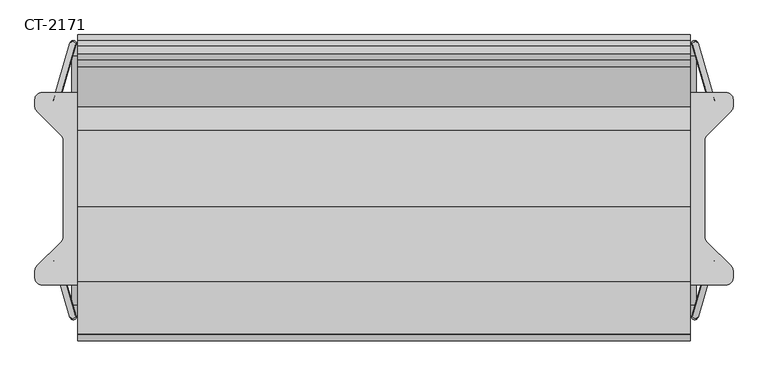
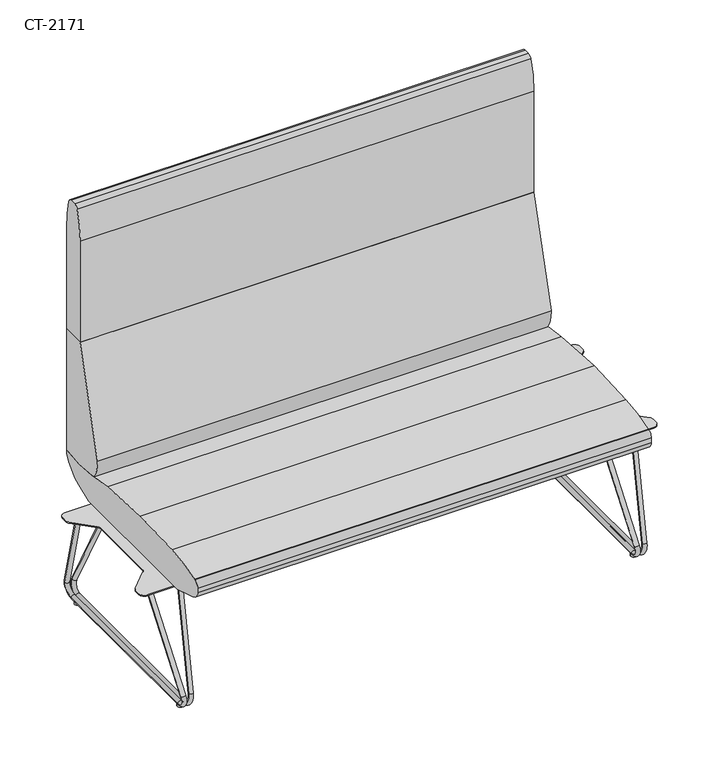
"""IFC4 building model written with IfcOpenShell, lengths in millimetres: furniture geometry, Davis_Furniture-Cantina-High_Back_Straight : CT-2171."""

import ifcopenshell
import ifcopenshell.guid

model = None  # the IFC model being written
_history = None  # IfcOwnerHistory: only IFC2X3 demands one
_inside = {}  # id of a spatial element -> (the spatial element, [elements in it])
_under = {}  # id of a project, library or spatial element -> (it, [spatial elements below it])
_declared = {}  # id of a project -> (the project, [libraries it declares])
_typed = {}  # id of a type object -> (the type object, [elements of that type])
_made_of = {}  # id of a material, layer set ... -> (it, [elements and type objects made of it])


def new_model(schema):
    """Start an empty IFC model of exactly this schema.

    Asked for "IFC4X3", IfcOpenShell would pick the latest addendum, in which some entities
    have other attributes; the version numbers below select the first issue.
    IFC2X3 requires an IfcOwnerHistory on every rooted entity: one is made here for all.
    """
    global model, _history
    if schema == "IFC4X3":
        model = ifcopenshell.file(schema_version=(4, 3, 0, 0))
    else:
        model = ifcopenshell.file(schema=schema)
    _inside.clear()
    _under.clear()
    _declared.clear()
    _typed.clear()
    _made_of.clear()
    _history = None
    if model.schema == "IFC2X3":
        org = make("IfcOrganization", Name="unknown")
        user = make(
            "IfcPersonAndOrganization",
            ThePerson=make("IfcPerson", FamilyName="unknown"),
            TheOrganization=org,
        )
        app = make(
            "IfcApplication",
            ApplicationDeveloper=org,
            Version="unknown",
            ApplicationFullName="unknown",
            ApplicationIdentifier="unknown",
        )
        _history = make(
            "IfcOwnerHistory",
            OwningUser=user,
            OwningApplication=app,
            ChangeAction="ADDED",
            CreationDate=0,
        )
    return model


def make(cls, **values):
    """One entity of the class cls with the attributes given. An attribute that is None is left unset."""
    return model.create_entity(
        cls, **{name: value for name, value in values.items() if value is not None}
    )


def rooted(cls, **values):
    """An entity with a GlobalId (a new one), such as an element, a storey or a relation."""
    return make(cls, GlobalId=ifcopenshell.guid.new(), OwnerHistory=_history, **values)


def si_unit(unit_type, name, prefix=None):
    """IfcSIUnit, for example si_unit("LENGTHUNIT", "METRE", prefix="MILLI")."""
    return make("IfcSIUnit", UnitType=unit_type, Prefix=prefix, Name=name)


def assignment(units):
    """IfcUnitAssignment: the units of a project."""
    return None if units is None else make("IfcUnitAssignment", Units=units)


def point(xyz):
    """IfcCartesianPoint."""
    return None if xyz is None else make("IfcCartesianPoint", Coordinates=xyz)


def direction(xyz):
    """IfcDirection."""
    return None if xyz is None else make("IfcDirection", DirectionRatios=xyz)


def frame(location, z_axis=None, x_axis=None):
    """IfcAxis2Placement3D, a coordinate frame: its origin and axes. An axis left out is left unset."""
    return make(
        "IfcAxis2Placement3D",
        Location=point(location),
        Axis=direction(z_axis),
        RefDirection=direction(x_axis),
    )


def frame_2d(location, x_axis=None):
    """IfcAxis2Placement2D, a coordinate frame in the plane: its origin and x axis."""
    return make(
        "IfcAxis2Placement2D", Location=point(location), RefDirection=direction(x_axis)
    )


def origin():
    """The frame at (0, 0, 0) with its axes left unset."""
    return frame((0.0, 0.0, 0.0))


def origin_with_axes():
    """The frame at (0, 0, 0) with the z axis (0, 0, 1) and the x axis (1, 0, 0) written out."""
    return frame((0.0, 0.0, 0.0), z_axis=(0.0, 0.0, 1.0), x_axis=(1.0, 0.0, 0.0))


def place(relative_to, where):
    """IfcLocalPlacement: puts the frame where relative to a parent placement (None: the world)."""
    return make(
        "IfcLocalPlacement", PlacementRelTo=relative_to, RelativePlacement=where
    )


def context(
    kind, dimensions, precision=None, world=None, true_north=None, identifier=None
):
    """IfcGeometricRepresentationContext, for example the 3D "Model" context."""
    return make(
        "IfcGeometricRepresentationContext",
        ContextIdentifier=identifier,
        ContextType=kind,
        CoordinateSpaceDimension=dimensions,
        Precision=precision,
        WorldCoordinateSystem=world,
        TrueNorth=true_north,
    )


def project(units=None, contexts=None):
    """IfcProject with its units and contexts."""
    return rooted(
        "IfcProject",
        Name="project",
        RepresentationContexts=contexts,
        UnitsInContext=assignment(units),
    )


def spatial(cls, under=None, at=None, **own):
    """A site, building, storey or space (cls), placed at a placement, below another one or the project."""
    s = rooted(cls, ObjectPlacement=at, **own)
    if under is not None:
        _under.setdefault(under.id(), (under, []))[1].append(s)
    return s


def polyline(points):
    """IfcPolyline through the points."""
    return make("IfcPolyline", Points=[point(p) for p in points])


def circle_curve(where, radius):
    """IfcCircle in the frame where."""
    return make("IfcCircle", Position=where, Radius=radius)


def ellipse_curve(where, semi_axis1, semi_axis2):
    """IfcEllipse in the frame where."""
    return make(
        "IfcEllipse", Position=where, SemiAxis1=semi_axis1, SemiAxis2=semi_axis2
    )


def trimmed(basis, trim1, trim2, sense, master):
    """IfcTrimmedCurve: the piece of a basis curve between two trims."""
    return make(
        "IfcTrimmedCurve",
        BasisCurve=basis,
        Trim1=trim1,
        Trim2=trim2,
        SenseAgreement=sense,
        MasterRepresentation=master,
    )


def segment(curve, same_sense, transition):
    """IfcCompositeCurveSegment."""
    return make(
        "IfcCompositeCurveSegment",
        Transition=transition,
        SameSense=same_sense,
        ParentCurve=curve,
    )


def composite_curve(segments, self_intersect=None):
    """IfcCompositeCurve: segments joined end to end."""
    return make("IfcCompositeCurve", Segments=segments, SelfIntersect=self_intersect)


def outline(outer, holes=None, kind="AREA"):
    """IfcArbitraryClosedProfileDef: a profile drawn as a closed curve; with holes, ...WithVoids."""
    if holes is None:
        return make("IfcArbitraryClosedProfileDef", ProfileType=kind, OuterCurve=outer)
    return make(
        "IfcArbitraryProfileDefWithVoids",
        ProfileType=kind,
        OuterCurve=outer,
        InnerCurves=holes,
    )


def extrude(swept, where, along, depth):
    """IfcExtrudedAreaSolid: the profile swept, set in the frame where, extruded along a direction by depth."""
    return make(
        "IfcExtrudedAreaSolid",
        SweptArea=swept,
        Position=where,
        ExtrudedDirection=direction(along),
        Depth=depth,
    )


def shape(context_of_items, identifier, shape_type, items):
    """IfcShapeRepresentation: the items that make up one representation, for example the "Body"."""
    return make(
        "IfcShapeRepresentation",
        ContextOfItems=context_of_items,
        RepresentationIdentifier=identifier,
        RepresentationType=shape_type,
        Items=items,
    )


def source(mapping_origin, context_of_items, identifier, shape_type, items):
    """IfcRepresentationMap: a shape defined once, which mapped items show again and again."""
    return make(
        "IfcRepresentationMap",
        MappingOrigin=mapping_origin,
        MappedRepresentation=shape(context_of_items, identifier, shape_type, items),
    )


def transform(
    local_origin,
    x_axis=None,
    y_axis=None,
    z_axis=None,
    scale=None,
    scale2=None,
    scale3=None,
    uniform=True,
):
    """IfcCartesianTransformationOperator3D, or its non-uniform kind. x_axis, y_axis, z_axis: its Axis1, 2, 3."""
    if uniform:
        return make(
            "IfcCartesianTransformationOperator3D",
            Axis1=direction(x_axis),
            Axis2=direction(y_axis),
            LocalOrigin=point(local_origin),
            Scale=scale,
            Axis3=direction(z_axis),
        )
    return make(
        "IfcCartesianTransformationOperator3DnonUniform",
        Axis1=direction(x_axis),
        Axis2=direction(y_axis),
        LocalOrigin=point(local_origin),
        Scale=scale,
        Axis3=direction(z_axis),
        Scale2=scale2,
        Scale3=scale3,
    )


def mapped(mapping_source, mapping_target):
    """IfcMappedItem: shows the shape of a source again, moved by a transform."""
    return make(
        "IfcMappedItem", MappingSource=mapping_source, MappingTarget=mapping_target
    )


def made_of(thing, what):
    """Note that an element or type object is made of a material, layer set ...; save() writes the relation."""
    if what is not None:
        _made_of.setdefault(what.id(), (what, []))[1].append(thing)
    return thing


def element(
    cls,
    number,
    at=None,
    inside=None,
    cuts=None,
    type_object=None,
    material=None,
    context=None,
    identifier="Body",
    shape_type=None,
    held_by="IfcProductDefinitionShape",
    body=None,
    shapes=None,
    **own,
):
    """One element of the class cls, such as IfcWall. Its Tag is "e" and its number.

    at: its placement. inside: the storey or other place that contains it. cuts: it is an
    opening in that element (IfcRelVoidsElement). A single representation is given by context,
    identifier, shape_type and body (its items); several are given by shapes. held_by: the class
    of the entity that holds the representations. save() writes the other relations.
    """
    e = rooted(cls, Tag="e%d" % number, ObjectPlacement=at, **own)
    if body is not None:
        shapes = [shape(context, identifier, shape_type, body)]
    if shapes is not None:
        e.Representation = make(held_by, Representations=shapes)
    if inside is not None:
        _inside.setdefault(inside.id(), (inside, []))[1].append(e)
    if cuts is not None:
        rooted(
            "IfcRelVoidsElement", RelatingBuildingElement=cuts, RelatedOpeningElement=e
        )
    if type_object is not None:
        _typed.setdefault(type_object.id(), (type_object, []))[1].append(e)
    return made_of(e, material)


def aggregate(whole, parts):
    """IfcRelAggregates: a whole, such as a stair, and the parts it consists of."""
    return rooted("IfcRelAggregates", RelatingObject=whole, RelatedObjects=parts)


def save(model, path):
    """Write the relations noted so far, then the file.

    IfcRelAggregates (storeys below a building ...), IfcRelContainedInSpatialStructure (elements
    in a storey), IfcRelDefinesByType, IfcRelAssociatesMaterial and IfcRelDeclares: one each for
    every whole, place, type object, material and project.
    """
    for whole, parts in _under.values():
        aggregate(whole, parts)
    for where, things in _inside.values():
        rooted(
            "IfcRelContainedInSpatialStructure",
            RelatedElements=things,
            RelatingStructure=where,
        )
    for kind, things in _typed.values():
        rooted("IfcRelDefinesByType", RelatedObjects=things, RelatingType=kind)
    for what, things in _made_of.values():
        rooted("IfcRelAssociatesMaterial", RelatedObjects=things, RelatingMaterial=what)
    for by, libraries in _declared.values():
        rooted("IfcRelDeclares", RelatingContext=by, RelatedDefinitions=libraries)
    model.write(path)


def plane_surface(at):
    """IfcPlane: the flat surface through the origin of the frame at, square to its z axis."""
    return make("IfcPlane", Position=at)


def cylinder_surface(at, radius):
    """IfcCylindricalSurface: all points at the distance radius from the z axis of the frame at."""
    return make("IfcCylindricalSurface", Position=at, Radius=radius)


def revolved_surface(curve, axis_point, axis_direction):
    """IfcSurfaceOfRevolution: the curve turned about the line through axis_point along axis_direction."""
    return make(
        "IfcSurfaceOfRevolution",
        SweptCurve=make("IfcArbitraryOpenProfileDef", ProfileType="CURVE", Curve=curve),
        AxisPosition=make("IfcAxis1Placement", Location=point(axis_point), Axis=direction(axis_direction)),
    )


def advanced_brep(points, edges, surfaces, faces):
    """IfcAdvancedBrep: a solid bounded by faces that lie on surfaces and meet in shared edges.

    An edge is (start, end): straight between two places in points (the first is 0);
    or (start, end, curve); or (start, end, curve, False) where it runs against its curve.
    A face is (place in surfaces, loops), or (place, loops, False) where it looks against
    its surface's normal. A loop lists edges by number (the first is 1), with a minus sign
    where the edge is run from its end to its start. The first loop is the outer one.
    """
    corners = [point(p) for p in points]
    vertices = [make("IfcVertexPoint", VertexGeometry=c) for c in corners]
    made = []
    for start, end, *more in edges:
        made.append(
            make(
                "IfcEdgeCurve",
                EdgeStart=vertices[start],
                EdgeEnd=vertices[end],
                EdgeGeometry=more[0] if more else make("IfcPolyline", Points=[corners[start], corners[end]]),
                SameSense=more[1] if len(more) > 1 else True,
            )
        )
    hull = []
    for where, loops, *sense in faces:
        bounds = []
        for j, loop in enumerate(loops):
            ring = [make("IfcOrientedEdge", EdgeElement=made[abs(k) - 1], Orientation=k > 0) for k in loop]
            bounds.append(
                make(
                    "IfcFaceOuterBound" if j == 0 else "IfcFaceBound",
                    Bound=make("IfcEdgeLoop", EdgeList=ring),
                    Orientation=True,
                )
            )
        hull.append(make("IfcAdvancedFace", Bounds=bounds, FaceSurface=surfaces[where], SameSense=sense[0] if sense else True))
    return make("IfcAdvancedBrep", Outer=make("IfcClosedShell", CfsFaces=hull))


def ct_2171_44496a0e(model_context):
    return source(origin(), model_context, "Body", "SolidModel", [
        extrude(outline(composite_curve([segment(trimmed(circle_curve(frame_2d((709.0306813, 183.2173202)), 14.9820313), [point((709.0306813, 198.1993514))], [point((724.0127126, 183.2173202))], False, "CARTESIAN"), True, "CONTINUOUS"), segment(polyline([(724.0127126, 183.2173202), (724.0127126, 168.7877705)]), True, "CONTINUOUS"), segment(trimmed(circle_curve(frame_2d((710.0063569, 168.7877705)), 14.0063557), [point((724.0127126, 168.7877705))], [point((719.910346, 158.8837814))], False, "CARTESIAN"), True, "CONTINUOUS"), segment(polyline([(719.910346, 158.8837814), (669.3136664, 108.2871019)]), True, "CONTINUOUS"), segment(trimmed(circle_curve(frame_2d((679.6970876, 97.9036807)), 14.684375), [point((669.3136664, 108.2871019))], [point((665.0127126, 97.9036807))], True, "CARTESIAN"), True, "CONTINUOUS"), segment(polyline([(665.0127126, 97.9036807), (665.0127126, -101.5049781)]), True, "CONTINUOUS"), segment(trimmed(circle_curve(frame_2d((679.6970876, -101.5049781)), 14.684375), [point((665.0127126, -101.5049781))], [point((669.3136664, -111.8883992))], True, "CARTESIAN"), True, "CONTINUOUS"), segment(polyline([(669.3136664, -111.8883992), (719.910346, -162.4850787)]), True, "CONTINUOUS"), segment(trimmed(circle_curve(frame_2d((710.0063569, -172.3890678)), 14.0063557), [point((719.910346, -162.4850787))], [point((724.0127126, -172.3890678))], False, "CARTESIAN"), True, "CONTINUOUS"), segment(polyline([(724.0127126, -172.3890678), (724.0127126, -186.8186175)]), True, "CONTINUOUS"), segment(trimmed(circle_curve(frame_2d((709.0306813, -186.8186175)), 14.9820312), [point((724.0127126, -186.8186175))], [point((709.0306813, -201.8006488))], False, "CARTESIAN"), True, "CONTINUOUS"), segment(polyline([(709.0306813, -201.8006488), (560.9693187, -201.8006488)]), True, "CONTINUOUS"), segment(trimmed(circle_curve(frame_2d((560.9693187, -186.8440427)), 14.956606), [point((560.9693187, -201.8006488))], [point((546.0127127, -186.8440427))], False, "CARTESIAN"), True, "CONTINUOUS"), segment(polyline([(546.0127127, -186.8440427), (546.0127127, -172.3822284)]), True, "CONTINUOUS"), segment(trimmed(circle_curve(frame_2d((560.0025564, -172.3822284)), 13.9898438), [point((546.0127127, -172.3822284))], [point((550.110243, -162.489915))], False, "CARTESIAN"), True, "CONTINUOUS"), segment(polyline([(550.110243, -162.489915), (600.7117588, -111.8883992)]), True, "CONTINUOUS"), segment(trimmed(circle_curve(frame_2d((590.3283377, -101.5049781)), 14.684375), [point((600.7117588, -111.8883992))], [point((605.0127127, -101.5049781))], True, "CARTESIAN"), True, "CONTINUOUS"), segment(polyline([(605.0127127, -101.5049781), (605.0127127, 97.918921)]), True, "CONTINUOUS"), segment(trimmed(circle_curve(frame_2d((590.3651309, 97.918921)), 14.6475818), [point((605.0127127, 97.918921))], [point((600.7225353, 108.2763254))], True, "CARTESIAN"), True, "CONTINUOUS"), segment(polyline([(600.7225353, 108.2763254), (550.110243, 158.8886177)]), True, "CONTINUOUS"), segment(trimmed(circle_curve(frame_2d((560.0025564, 168.780931)), 13.9898437), [point((550.110243, 158.8886177))], [point((546.0127127, 168.780931))], False, "CARTESIAN"), True, "CONTINUOUS"), segment(polyline([(546.0127127, 168.780931), (546.0127127, 183.2427454)]), True, "CONTINUOUS"), segment(trimmed(circle_curve(frame_2d((560.9693187, 183.2427454)), 14.956606), [point((546.0127127, 183.2427454))], [point((560.9693187, 198.1993514))], False, "CARTESIAN"), True, "CONTINUOUS"), segment(polyline([(560.9693187, 198.1993514), (709.0306813, 198.1993514)]), True, "CONTINUOUS")], self_intersect=False)), frame((0.0, 0.0, 330.7277844), z_axis=(0.0, 0.0, 1.0), x_axis=(1.0, 0.0, 0.0)), (0.0, 0.0, 1.0), 3.1724353),
        advanced_brep(
        [(639.3476455, 298.4299122, 51.3019909), (651.7863293, 297.001732, 49.1737411), (686.3568189, 178.5251074, 330.7277844), (673.6568189, 180.8488451, 330.7277844), (634.9955294, 274.6441492, 15.8568497), (647.6955294, 274.6441492, 15.8568497), (634.9955294, -242.6856853, 15.8568497), (647.6955294, -242.6856853, 15.8568497), (639.3476455, -266.4714483, 51.3019909), (651.7863293, -265.0432681, 49.1737411), (673.6568189, -148.8903812, 330.7277844), (686.3568189, -146.5666435, 330.7277844)],
        [
            (0, 1, circle_curve(frame((645.5669874, 297.7158221, 50.237866), z_axis=(0.112455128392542, -0.3853952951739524, 0.9158735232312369), x_axis=(-0.9794239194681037, 0.11245512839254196, 0.16757872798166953)), 6.35)),
            (1, 2),
            (2, 3, ellipse_curve(frame((680.0068189, 179.6869762, 330.7277844), z_axis=(0.0, 0.0, -1.0), x_axis=(0.28011057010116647, -0.9599677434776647, 0.0)), 6.9332717, 6.35)),
            (3, 0),
            (1, 0, circle_curve(frame((645.5669874, 297.7158221, 50.237866), z_axis=(0.112455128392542, -0.3853952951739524, 0.9158735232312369), x_axis=(-0.9794239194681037, 0.11245512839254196, 0.16757872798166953)), 6.35)),
            (3, 2, ellipse_curve(frame((680.0068189, 179.6869762, 330.7277844), z_axis=(0.0, 0.0, -1.0), x_axis=(0.28011057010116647, -0.9599677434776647, 0.0)), 6.9332717, 6.35)),
            (0, 4, circle_curve(frame((638.1369549, 274.6441492, 41.4417072), z_axis=(-0.9925461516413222, 0.0, 0.12186934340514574), x_axis=(0.046967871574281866, 0.9227515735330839, 0.38252261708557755)), 25.7769953)),
            (4, 5, circle_curve(frame((641.3455294, 274.6441492, 15.8568497), z_axis=(0.0, 1.0, 0.0), x_axis=(-1.0, 0.0, 0.0)), 6.35)),
            (5, 1, circle_curve(frame((650.6483328, 274.6441492, 39.9055032), z_axis=(0.9925461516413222, 0.0, -0.12186934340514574), x_axis=(0.046967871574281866, 0.9227515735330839, 0.38252261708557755)), 24.2292547)),
            (5, 4, circle_curve(frame((641.3455294, 274.6441492, 15.8568497), z_axis=(0.0, 0.9999999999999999, 0.0), x_axis=(-1.0, 0.0, 0.0)), 6.35)),
            (4, 6),
            (6, 7, circle_curve(frame((641.3455294, -242.6856853, 15.8568497), z_axis=(0.0, 1.0, 0.0), x_axis=(-1.0, 0.0, 0.0)), 6.35)),
            (7, 5),
            (7, 6, circle_curve(frame((641.3455294, -242.6856853, 15.8568497), z_axis=(0.0, 1.0, 0.0), x_axis=(-1.0, 0.0, 0.0)), 6.35)),
            (6, 8, circle_curve(frame((638.1369549, -242.6856853, 41.4417072), z_axis=(-0.9925461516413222, 0.0, 0.12186934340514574), x_axis=(-0.12186934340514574, 0.0, -0.9925461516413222)), 25.7769953)),
            (8, 9, circle_curve(frame((645.5669874, -265.7573582, 50.237866), z_axis=(-0.11245512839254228, -0.3853952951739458, -0.9158735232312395), x_axis=(-0.9794239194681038, -0.1124551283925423, 0.16757872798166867)), 6.35)),
            (9, 7, circle_curve(frame((650.6483328, -242.6856853, 39.9055032), z_axis=(0.9925461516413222, 0.0, -0.12186934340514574), x_axis=(-0.12186934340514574, 0.0, -0.9925461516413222)), 24.2292547)),
            (9, 8, circle_curve(frame((645.5669874, -265.7573582, 50.237866), z_axis=(-0.11245512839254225, -0.3853952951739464, -0.9158735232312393), x_axis=(-0.9794239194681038, -0.11245512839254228, 0.16757872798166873)), 6.35)),
            (8, 10),
            (10, 11, ellipse_curve(frame((680.0068189, -147.7285123, 330.7277844), z_axis=(0.0, 0.0, -1.0), x_axis=(-0.28011057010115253, -0.9599677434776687, 0.0)), 6.9332717, 6.35)),
            (11, 9),
            (11, 10, ellipse_curve(frame((680.0068189, -147.7285123, 330.7277844), z_axis=(0.0, 0.0, -1.0), x_axis=(-0.28011057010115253, -0.9599677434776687, 0.0)), 6.9332717, 6.35)),
        ],
        [
            cylinder_surface(frame((681.1405198, 175.8016664, 339.9610379), z_axis=(0.112455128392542, -0.3853952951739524, 0.9158735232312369), x_axis=(-0.9794239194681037, 0.11245512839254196, 0.16757872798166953)), 6.35),
            revolved_surface(trimmed(ellipse_curve(frame((645.5669874, 297.7158221, 50.237866), z_axis=(0.11245512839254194, -0.38539529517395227, 0.9158735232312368), x_axis=(-0.9794239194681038, 0.112455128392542, 0.1675787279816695)), 6.35, 6.35), [point((639.3476455, 298.4299122, 51.3019909))], [point((651.7863293, 297.001732, 49.1737411))], True, "CARTESIAN"), (697.3582375, 274.6441492, 34.170248), (-0.9925461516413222, 0.0, 0.12186934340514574)),
            revolved_surface(trimmed(ellipse_curve(frame((645.5669874, 297.7158221, 50.237866), z_axis=(0.11245512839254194, -0.38539529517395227, 0.9158735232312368), x_axis=(-0.9794239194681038, 0.112455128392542, 0.1675787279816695)), 6.35, 6.35), [point((651.7863293, 297.001732, 49.1737411))], [point((639.3476455, 298.4299122, 51.3019909))], True, "CARTESIAN"), (697.3582375, 274.6441492, 34.170248), (-0.9925461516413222, 0.0, 0.12186934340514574)),
            cylinder_surface(frame((641.3455294, 274.6441492, 15.8568497), z_axis=(0.0, 1.0, 0.0), x_axis=(-1.0, 0.0, 0.0)), 6.35),
            revolved_surface(trimmed(ellipse_curve(frame((641.3455294, -242.6856853, 15.8568497), z_axis=(0.0, 1.0, 0.0), x_axis=(-1.0, 0.0, 0.0)), 6.35, 6.35), [point((634.9955294, -242.6856853, 15.8568497))], [point((647.6955294, -242.6856853, 15.8568497))], True, "CARTESIAN"), (697.3582375, -242.6856853, 34.170248), (-0.9925461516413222, 0.0, 0.12186934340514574)),
            revolved_surface(trimmed(ellipse_curve(frame((641.3455294, -242.6856853, 15.8568497), z_axis=(0.0, 1.0, 0.0), x_axis=(-1.0, 0.0, 0.0)), 6.35, 6.35), [point((647.6955294, -242.6856853, 15.8568497))], [point((634.9955294, -242.6856853, 15.8568497))], True, "CARTESIAN"), (697.3582375, -242.6856853, 34.170248), (-0.9925461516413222, 0.0, 0.12186934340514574)),
            cylinder_surface(frame((645.5669874, -265.7573582, 50.237866), z_axis=(-0.11245512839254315, -0.38539529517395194, -0.9158735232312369), x_axis=(-0.9794239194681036, -0.11245512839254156, 0.1675787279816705)), 6.35),
            plane_surface(frame((574.675, -168.170768, 330.7277844), z_axis=(0.0, 0.0, 1.0), x_axis=(0.0, 1.0, 0.0))),
        ],
        [
            (0, [[1, 2, 3, 4]]),
            (0, [[5, -4, 6, -2]]),
            (1, [[-1, 7, 8, 9]]),
            (2, [[-5, -9, 10, -7]]),
            (3, [[-8, 11, 12, 13]]),
            (3, [[-10, -13, 14, -11]]),
            (4, [[-12, 15, 16, 17]]),
            (5, [[-14, -17, 18, -15]]),
            (6, [[-16, 19, 20, 21]]),
            (6, [[-18, -21, 22, -19]]),
            (7, [[-3, -6]]),
            (7, [[-20, -22]]),
        ],
    ),
        advanced_brep(
        [(618.2136707, 297.001732, 49.1737411), (630.6523545, 298.4299122, 51.3019909), (596.3431811, 180.8488451, 330.7277844), (583.6431811, 178.5251074, 330.7277844), (622.3044706, 274.6441492, 15.8568497), (635.0044706, 274.6441492, 15.8568497), (622.3044706, -242.6856853, 15.8568497), (635.0044706, -242.6856853, 15.8568497), (618.2136707, -265.0432681, 49.1737411), (630.6523545, -266.4714483, 51.3019909), (583.6431811, -146.5666435, 330.7277844), (596.3431811, -148.8903812, 330.7277844)],
        [
            (0, 1, circle_curve(frame((624.4330126, 297.7158221, 50.237866), z_axis=(-0.11245512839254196, -0.38539529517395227, 0.915873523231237), x_axis=(0.9794239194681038, 0.11245512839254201, 0.1675787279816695)), 6.35)),
            (1, 2),
            (2, 3, ellipse_curve(frame((589.9931811, 179.6869762, 330.7277844), z_axis=(0.0, 0.0, -1.0), x_axis=(-0.28011057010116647, -0.9599677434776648, 0.0)), 6.9332717, 6.35)),
            (3, 0),
            (1, 0, circle_curve(frame((624.4330126, 297.7158221, 50.237866), z_axis=(-0.11245512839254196, -0.38539529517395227, 0.915873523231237), x_axis=(0.9794239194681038, 0.11245512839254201, 0.1675787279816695)), 6.35)),
            (3, 2, ellipse_curve(frame((589.9931811, 179.6869762, 330.7277844), z_axis=(0.0, 0.0, -1.0), x_axis=(-0.28011057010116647, -0.9599677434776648, 0.0)), 6.9332717, 6.35)),
            (0, 4, circle_curve(frame((619.3516672, 274.6441492, 39.9055032), z_axis=(-0.9925461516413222, 0.0, -0.12186934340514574), x_axis=(-0.046967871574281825, 0.9227515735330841, 0.38252261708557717)), 24.2292547)),
            (4, 5, circle_curve(frame((628.6544706, 274.6441492, 15.8568497), z_axis=(0.0, 1.0000000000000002, 0.0), x_axis=(1.0, 0.0, 0.0)), 6.35)),
            (5, 1, circle_curve(frame((631.8630451, 274.6441492, 41.4417072), z_axis=(0.9925461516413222, 0.0, 0.12186934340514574), x_axis=(-0.046967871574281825, 0.9227515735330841, 0.38252261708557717)), 25.7769953)),
            (5, 4, circle_curve(frame((628.6544706, 274.6441492, 15.8568497), z_axis=(0.0, 1.0000000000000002, 0.0), x_axis=(1.0, 0.0, 0.0)), 6.35)),
            (4, 6),
            (6, 7, circle_curve(frame((628.6544706, -242.6856853, 15.8568497), z_axis=(0.0, 1.0, 0.0), x_axis=(1.0, 0.0, 0.0)), 6.35)),
            (7, 5),
            (7, 6, circle_curve(frame((628.6544706, -242.6856853, 15.8568497), z_axis=(0.0, 1.0, 0.0), x_axis=(1.0, 0.0, 0.0)), 6.35)),
            (6, 8, circle_curve(frame((619.3516672, -242.6856853, 39.9055032), z_axis=(-0.9925461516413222, 0.0, -0.12186934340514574), x_axis=(0.12186934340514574, 0.0, -0.9925461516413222)), 24.2292547)),
            (8, 9, circle_curve(frame((624.4330126, -265.7573582, 50.237866), z_axis=(0.11245512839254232, -0.3853952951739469, -0.915873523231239), x_axis=(0.9794239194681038, -0.11245512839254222, 0.1675787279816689)), 6.35)),
            (9, 7, circle_curve(frame((631.8630451, -242.6856853, 41.4417072), z_axis=(0.9925461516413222, 0.0, 0.12186934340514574), x_axis=(0.12186934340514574, 0.0, -0.9925461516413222)), 25.7769953)),
            (9, 8, circle_curve(frame((624.4330126, -265.7573582, 50.237866), z_axis=(0.11245512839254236, -0.3853952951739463, -0.9158735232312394), x_axis=(0.9794239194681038, -0.11245512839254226, 0.1675787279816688)), 6.35)),
            (8, 10),
            (10, 11, ellipse_curve(frame((589.9931811, -147.7285123, 330.7277844), z_axis=(0.0, 0.0, -1.0), x_axis=(0.2801105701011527, -0.9599677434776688, 0.0)), 6.9332717, 6.35)),
            (11, 9),
            (11, 10, ellipse_curve(frame((589.9931811, -147.7285123, 330.7277844), z_axis=(0.0, 0.0, -1.0), x_axis=(0.2801105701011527, -0.9599677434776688, 0.0)), 6.9332717, 6.35)),
        ],
        [
            cylinder_surface(frame((588.8594802, 175.8016664, 339.9610379), z_axis=(-0.11245512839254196, -0.38539529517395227, 0.915873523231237), x_axis=(0.9794239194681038, 0.11245512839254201, 0.1675787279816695)), 6.35),
            revolved_surface(trimmed(ellipse_curve(frame((624.4330126, 297.7158221, 50.237866), z_axis=(-0.11245512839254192, -0.385395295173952, 0.9158735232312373), x_axis=(0.9794239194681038, 0.11245512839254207, 0.1675787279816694)), 6.35, 6.35), [point((618.2136707, 297.001732, 49.1737411))], [point((630.6523545, 298.4299122, 51.3019909))], True, "CARTESIAN"), (572.6417625, 274.6441492, 34.170248), (-0.9925461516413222, 0.0, -0.12186934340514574)),
            revolved_surface(trimmed(ellipse_curve(frame((624.4330126, 297.7158221, 50.237866), z_axis=(-0.11245512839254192, -0.385395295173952, 0.9158735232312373), x_axis=(0.9794239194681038, 0.11245512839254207, 0.1675787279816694)), 6.35, 6.35), [point((630.6523545, 298.4299122, 51.3019909))], [point((618.2136707, 297.001732, 49.1737411))], True, "CARTESIAN"), (572.6417625, 274.6441492, 34.170248), (-0.9925461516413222, 0.0, -0.12186934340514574)),
            cylinder_surface(frame((628.6544706, 274.6441492, 15.8568497), z_axis=(0.0, 1.0, 0.0), x_axis=(1.0, 0.0, 0.0)), 6.35),
            revolved_surface(trimmed(ellipse_curve(frame((628.6544706, -242.6856853, 15.8568497), z_axis=(0.0, 1.0, 0.0), x_axis=(1.0, 0.0, 0.0)), 6.35, 6.35), [point((622.3044706, -242.6856853, 15.8568497))], [point((635.0044706, -242.6856853, 15.8568497))], True, "CARTESIAN"), (572.6417625, -242.6856853, 34.170248), (-0.9925461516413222, 0.0, -0.12186934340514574)),
            revolved_surface(trimmed(ellipse_curve(frame((628.6544706, -242.6856853, 15.8568497), z_axis=(0.0, 1.0, 0.0), x_axis=(1.0, 0.0, 0.0)), 6.35, 6.35), [point((635.0044706, -242.6856853, 15.8568497))], [point((622.3044706, -242.6856853, 15.8568497))], True, "CARTESIAN"), (572.6417625, -242.6856853, 34.170248), (-0.9925461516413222, 0.0, -0.12186934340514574)),
            cylinder_surface(frame((624.4330126, -265.7573582, 50.237866), z_axis=(0.11245512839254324, -0.38539529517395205, -0.9158735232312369), x_axis=(0.9794239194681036, -0.11245512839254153, 0.16757872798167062)), 6.35),
            plane_surface(frame((574.675, -168.170768, 330.7277844), z_axis=(0.0, 0.0, 1.0), x_axis=(0.0, 1.0, 0.0))),
        ],
        [
            (0, [[1, 2, 3, 4]]),
            (0, [[5, -4, 6, -2]]),
            (1, [[-1, 7, 8, 9]]),
            (2, [[-5, -9, 10, -7]]),
            (3, [[-8, 11, 12, 13]]),
            (3, [[-10, -13, 14, -11]]),
            (4, [[-12, 15, 16, 17]]),
            (5, [[-14, -17, 18, -15]]),
            (6, [[-16, 19, 20, 21]]),
            (6, [[-18, -21, 22, -19]]),
            (7, [[-3, -6]]),
            (7, [[-20, -22]]),
        ],
    ),
        extrude(outline(composite_curve([segment(trimmed(circle_curve(frame_2d((635.0, -233.1061316)), 8.5328125), [point((626.4671875, -233.1061316))], [point((643.5328125, -233.1061316))], False, "CARTESIAN"), True, "CONTINUOUS"), segment(trimmed(circle_curve(frame_2d((635.0, -233.1061316)), 8.5328125), [point((643.5328125, -233.1061316))], [point((626.4671875, -233.1061316))], False, "CARTESIAN"), True, "CONTINUOUS")], self_intersect=False)), origin_with_axes(), (0.0, 0.0, 1.0), 9.5168817),
        extrude(outline(composite_curve([segment(trimmed(circle_curve(frame_2d((635.0, 265.0645955)), 8.5328125), [point((626.4671875, 265.0645955))], [point((643.5328125, 265.0645955))], False, "CARTESIAN"), True, "CONTINUOUS"), segment(trimmed(circle_curve(frame_2d((635.0, 265.0645955)), 8.5328125), [point((643.5328125, 265.0645955))], [point((626.4671875, 265.0645955))], False, "CARTESIAN"), True, "CONTINUOUS")], self_intersect=False)), origin_with_axes(), (0.0, 0.0, 1.0), 9.5168817),
        extrude(outline(composite_curve([segment(trimmed(circle_curve(frame_2d((-560.9693187, 183.2173202)), 14.9820313), [point((-560.9693187, 198.1993514))], [point((-545.9872874, 183.2173202))], False, "CARTESIAN"), True, "CONTINUOUS"), segment(polyline([(-545.9872874, 183.2173202), (-545.9872874, 168.7877705)]), True, "CONTINUOUS"), segment(trimmed(circle_curve(frame_2d((-559.9936431, 168.7877705)), 14.0063557), [point((-545.9872874, 168.7877705))], [point((-550.089654, 158.8837814))], False, "CARTESIAN"), True, "CONTINUOUS"), segment(polyline([(-550.089654, 158.8837814), (-600.6863336, 108.2871019)]), True, "CONTINUOUS"), segment(trimmed(circle_curve(frame_2d((-590.3029124, 97.9036807)), 14.684375), [point((-600.6863336, 108.2871019))], [point((-604.9872874, 97.9036807))], True, "CARTESIAN"), True, "CONTINUOUS"), segment(polyline([(-604.9872874, 97.9036807), (-604.9872874, -101.5049781)]), True, "CONTINUOUS"), segment(trimmed(circle_curve(frame_2d((-590.3029124, -101.5049781)), 14.684375), [point((-604.9872874, -101.5049781))], [point((-600.6863336, -111.8883992))], True, "CARTESIAN"), True, "CONTINUOUS"), segment(polyline([(-600.6863336, -111.8883992), (-550.089654, -162.4850787)]), True, "CONTINUOUS"), segment(trimmed(circle_curve(frame_2d((-559.9936431, -172.3890678)), 14.0063557), [point((-550.089654, -162.4850787))], [point((-545.9872874, -172.3890678))], False, "CARTESIAN"), True, "CONTINUOUS"), segment(polyline([(-545.9872874, -172.3890678), (-545.9872874, -186.8186175)]), True, "CONTINUOUS"), segment(trimmed(circle_curve(frame_2d((-560.9693187, -186.8186175)), 14.9820312), [point((-545.9872874, -186.8186175))], [point((-560.9693187, -201.8006488))], False, "CARTESIAN"), True, "CONTINUOUS"), segment(polyline([(-560.9693187, -201.8006488), (-709.0306813, -201.8006488)]), True, "CONTINUOUS"), segment(trimmed(circle_curve(frame_2d((-709.0306813, -186.8440427)), 14.956606), [point((-709.0306813, -201.8006488))], [point((-723.9872873, -186.8440427))], False, "CARTESIAN"), True, "CONTINUOUS"), segment(polyline([(-723.9872873, -186.8440427), (-723.9872873, -172.3822284)]), True, "CONTINUOUS"), segment(trimmed(circle_curve(frame_2d((-709.9974436, -172.3822284)), 13.9898438), [point((-723.9872873, -172.3822284))], [point((-719.889757, -162.489915))], False, "CARTESIAN"), True, "CONTINUOUS"), segment(polyline([(-719.889757, -162.489915), (-669.2882412, -111.8883992)]), True, "CONTINUOUS"), segment(trimmed(circle_curve(frame_2d((-679.6716623, -101.5049781)), 14.684375), [point((-669.2882412, -111.8883992))], [point((-664.9872873, -101.5049781))], True, "CARTESIAN"), True, "CONTINUOUS"), segment(polyline([(-664.9872873, -101.5049781), (-664.9872873, 97.918921)]), True, "CONTINUOUS"), segment(trimmed(circle_curve(frame_2d((-679.6348691, 97.918921)), 14.6475818), [point((-664.9872873, 97.918921))], [point((-669.2774647, 108.2763254))], True, "CARTESIAN"), True, "CONTINUOUS"), segment(polyline([(-669.2774647, 108.2763254), (-719.889757, 158.8886177)]), True, "CONTINUOUS"), segment(trimmed(circle_curve(frame_2d((-709.9974436, 168.780931)), 13.9898437), [point((-719.889757, 158.8886177))], [point((-723.9872873, 168.780931))], False, "CARTESIAN"), True, "CONTINUOUS"), segment(polyline([(-723.9872873, 168.780931), (-723.9872873, 183.2427454)]), True, "CONTINUOUS"), segment(trimmed(circle_curve(frame_2d((-709.0306813, 183.2427454)), 14.956606), [point((-723.9872873, 183.2427454))], [point((-709.0306813, 198.1993514))], False, "CARTESIAN"), True, "CONTINUOUS"), segment(polyline([(-709.0306813, 198.1993514), (-560.9693187, 198.1993514)]), True, "CONTINUOUS")], self_intersect=False)), frame((0.0, 0.0, 330.7277844), z_axis=(0.0, 0.0, 1.0), x_axis=(1.0, 0.0, 0.0)), (0.0, 0.0, 1.0), 3.1724353),
        advanced_brep(
        [(-630.6523545, 298.4299122, 51.3019909), (-618.2136707, 297.001732, 49.1737411), (-583.6431811, 178.5251074, 330.7277844), (-596.3431811, 180.8488451, 330.7277844), (-635.0044706, 274.6441492, 15.8568497), (-622.3044706, 274.6441492, 15.8568497), (-635.0044706, -242.6856853, 15.8568497), (-622.3044706, -242.6856853, 15.8568497), (-630.6523545, -266.4714483, 51.3019909), (-618.2136707, -265.0432681, 49.1737411), (-596.3431811, -148.8903812, 330.7277844), (-583.6431811, -146.5666435, 330.7277844)],
        [
            (0, 1, circle_curve(frame((-624.4330126, 297.7158221, 50.237866), z_axis=(0.112455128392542, -0.3853952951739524, 0.9158735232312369), x_axis=(-0.9794239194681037, 0.11245512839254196, 0.16757872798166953)), 6.35)),
            (1, 2),
            (2, 3, ellipse_curve(frame((-589.9931811, 179.6869762, 330.7277844), z_axis=(0.0, 0.0, -1.0), x_axis=(0.28011057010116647, -0.9599677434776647, 0.0)), 6.9332717, 6.35)),
            (3, 0),
            (1, 0, circle_curve(frame((-624.4330126, 297.7158221, 50.237866), z_axis=(0.112455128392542, -0.3853952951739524, 0.9158735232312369), x_axis=(-0.9794239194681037, 0.11245512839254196, 0.16757872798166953)), 6.35)),
            (3, 2, ellipse_curve(frame((-589.9931811, 179.6869762, 330.7277844), z_axis=(0.0, 0.0, -1.0), x_axis=(0.28011057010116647, -0.9599677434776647, 0.0)), 6.9332717, 6.35)),
            (0, 4, circle_curve(frame((-631.8630451, 274.6441492, 41.4417072), z_axis=(-0.9925461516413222, 0.0, 0.12186934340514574), x_axis=(0.046967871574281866, 0.9227515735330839, 0.38252261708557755)), 25.7769953)),
            (4, 5, circle_curve(frame((-628.6544706, 274.6441492, 15.8568497), z_axis=(0.0, 1.0, 0.0), x_axis=(-1.0, 0.0, 0.0)), 6.35)),
            (5, 1, circle_curve(frame((-619.3516672, 274.6441492, 39.9055032), z_axis=(0.9925461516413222, 0.0, -0.12186934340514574), x_axis=(0.046967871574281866, 0.9227515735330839, 0.38252261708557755)), 24.2292547)),
            (5, 4, circle_curve(frame((-628.6544706, 274.6441492, 15.8568497), z_axis=(0.0, 0.9999999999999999, 0.0), x_axis=(-1.0, 0.0, 0.0)), 6.35)),
            (4, 6),
            (6, 7, circle_curve(frame((-628.6544706, -242.6856853, 15.8568497), z_axis=(0.0, 1.0, 0.0), x_axis=(-1.0, 0.0, 0.0)), 6.35)),
            (7, 5),
            (7, 6, circle_curve(frame((-628.6544706, -242.6856853, 15.8568497), z_axis=(0.0, 1.0, 0.0), x_axis=(-1.0, 0.0, 0.0)), 6.35)),
            (6, 8, circle_curve(frame((-631.8630451, -242.6856853, 41.4417072), z_axis=(-0.9925461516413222, 0.0, 0.12186934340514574), x_axis=(-0.12186934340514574, 0.0, -0.9925461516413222)), 25.7769953)),
            (8, 9, circle_curve(frame((-624.4330126, -265.7573582, 50.237866), z_axis=(-0.11245512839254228, -0.3853952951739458, -0.9158735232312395), x_axis=(-0.9794239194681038, -0.1124551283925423, 0.16757872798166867)), 6.35)),
            (9, 7, circle_curve(frame((-619.3516672, -242.6856853, 39.9055032), z_axis=(0.9925461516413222, 0.0, -0.12186934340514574), x_axis=(-0.12186934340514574, 0.0, -0.9925461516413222)), 24.2292547)),
            (9, 8, circle_curve(frame((-624.4330126, -265.7573582, 50.237866), z_axis=(-0.11245512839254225, -0.3853952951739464, -0.9158735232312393), x_axis=(-0.9794239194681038, -0.11245512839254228, 0.16757872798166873)), 6.35)),
            (8, 10),
            (10, 11, ellipse_curve(frame((-589.9931811, -147.7285123, 330.7277844), z_axis=(0.0, 0.0, -1.0), x_axis=(-0.28011057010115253, -0.9599677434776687, 0.0)), 6.9332717, 6.35)),
            (11, 9),
            (11, 10, ellipse_curve(frame((-589.9931811, -147.7285123, 330.7277844), z_axis=(0.0, 0.0, -1.0), x_axis=(-0.28011057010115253, -0.9599677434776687, 0.0)), 6.9332717, 6.35)),
        ],
        [
            cylinder_surface(frame((-588.8594802, 175.8016664, 339.9610379), z_axis=(0.112455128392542, -0.3853952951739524, 0.9158735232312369), x_axis=(-0.9794239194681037, 0.11245512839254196, 0.16757872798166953)), 6.35),
            revolved_surface(trimmed(ellipse_curve(frame((-624.4330126, 297.7158221, 50.237866), z_axis=(0.11245512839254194, -0.38539529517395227, 0.9158735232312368), x_axis=(-0.9794239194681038, 0.112455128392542, 0.1675787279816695)), 6.35, 6.35), [point((-630.6523545, 298.4299122, 51.3019909))], [point((-618.2136707, 297.001732, 49.1737411))], True, "CARTESIAN"), (-572.6417625, 274.6441492, 34.170248), (-0.9925461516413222, 0.0, 0.12186934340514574)),
            revolved_surface(trimmed(ellipse_curve(frame((-624.4330126, 297.7158221, 50.237866), z_axis=(0.11245512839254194, -0.38539529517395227, 0.9158735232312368), x_axis=(-0.9794239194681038, 0.112455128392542, 0.1675787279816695)), 6.35, 6.35), [point((-618.2136707, 297.001732, 49.1737411))], [point((-630.6523545, 298.4299122, 51.3019909))], True, "CARTESIAN"), (-572.6417625, 274.6441492, 34.170248), (-0.9925461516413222, 0.0, 0.12186934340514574)),
            cylinder_surface(frame((-628.6544706, 274.6441492, 15.8568497), z_axis=(0.0, 1.0, 0.0), x_axis=(-1.0, 0.0, 0.0)), 6.35),
            revolved_surface(trimmed(ellipse_curve(frame((-628.6544706, -242.6856853, 15.8568497), z_axis=(0.0, 1.0, 0.0), x_axis=(-1.0, 0.0, 0.0)), 6.35, 6.35), [point((-635.0044706, -242.6856853, 15.8568497))], [point((-622.3044706, -242.6856853, 15.8568497))], True, "CARTESIAN"), (-572.6417625, -242.6856853, 34.170248), (-0.9925461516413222, 0.0, 0.12186934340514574)),
            revolved_surface(trimmed(ellipse_curve(frame((-628.6544706, -242.6856853, 15.8568497), z_axis=(0.0, 1.0, 0.0), x_axis=(-1.0, 0.0, 0.0)), 6.35, 6.35), [point((-622.3044706, -242.6856853, 15.8568497))], [point((-635.0044706, -242.6856853, 15.8568497))], True, "CARTESIAN"), (-572.6417625, -242.6856853, 34.170248), (-0.9925461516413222, 0.0, 0.12186934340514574)),
            cylinder_surface(frame((-624.4330126, -265.7573582, 50.237866), z_axis=(-0.11245512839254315, -0.38539529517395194, -0.9158735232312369), x_axis=(-0.9794239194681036, -0.11245512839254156, 0.1675787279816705)), 6.35),
            plane_surface(frame((-695.325, -168.170768, 330.7277844), z_axis=(0.0, 0.0, 1.0), x_axis=(0.0, 1.0, 0.0))),
        ],
        [
            (0, [[1, 2, 3, 4]]),
            (0, [[5, -4, 6, -2]]),
            (1, [[-1, 7, 8, 9]]),
            (2, [[-5, -9, 10, -7]]),
            (3, [[-8, 11, 12, 13]]),
            (3, [[-10, -13, 14, -11]]),
            (4, [[-12, 15, 16, 17]]),
            (5, [[-14, -17, 18, -15]]),
            (6, [[-16, 19, 20, 21]]),
            (6, [[-18, -21, 22, -19]]),
            (7, [[-3, -6]]),
            (7, [[-20, -22]]),
        ],
    ),
        advanced_brep(
        [(-651.7863293, 297.001732, 49.1737411), (-639.3476455, 298.4299122, 51.3019909), (-673.6568189, 180.8488451, 330.7277844), (-686.3568189, 178.5251074, 330.7277844), (-647.6955294, 274.6441492, 15.8568497), (-634.9955294, 274.6441492, 15.8568497), (-647.6955294, -242.6856853, 15.8568497), (-634.9955294, -242.6856853, 15.8568497), (-651.7863293, -265.0432681, 49.1737411), (-639.3476455, -266.4714483, 51.3019909), (-686.3568189, -146.5666435, 330.7277844), (-673.6568189, -148.8903812, 330.7277844)],
        [
            (0, 1, circle_curve(frame((-645.5669874, 297.7158221, 50.237866), z_axis=(-0.11245512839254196, -0.38539529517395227, 0.915873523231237), x_axis=(0.9794239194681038, 0.11245512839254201, 0.1675787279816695)), 6.35)),
            (1, 2),
            (2, 3, ellipse_curve(frame((-680.0068189, 179.6869762, 330.7277844), z_axis=(0.0, 0.0, -1.0), x_axis=(-0.28011057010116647, -0.9599677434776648, 0.0)), 6.9332717, 6.35)),
            (3, 0),
            (1, 0, circle_curve(frame((-645.5669874, 297.7158221, 50.237866), z_axis=(-0.11245512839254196, -0.38539529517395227, 0.915873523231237), x_axis=(0.9794239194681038, 0.11245512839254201, 0.1675787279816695)), 6.35)),
            (3, 2, ellipse_curve(frame((-680.0068189, 179.6869762, 330.7277844), z_axis=(0.0, 0.0, -1.0), x_axis=(-0.28011057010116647, -0.9599677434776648, 0.0)), 6.9332717, 6.35)),
            (0, 4, circle_curve(frame((-650.6483328, 274.6441492, 39.9055032), z_axis=(-0.9925461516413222, 0.0, -0.12186934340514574), x_axis=(-0.046967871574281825, 0.9227515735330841, 0.38252261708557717)), 24.2292547)),
            (4, 5, circle_curve(frame((-641.3455294, 274.6441492, 15.8568497), z_axis=(0.0, 1.0000000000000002, 0.0), x_axis=(1.0, 0.0, 0.0)), 6.35)),
            (5, 1, circle_curve(frame((-638.1369549, 274.6441492, 41.4417072), z_axis=(0.9925461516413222, 0.0, 0.12186934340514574), x_axis=(-0.046967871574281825, 0.9227515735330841, 0.38252261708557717)), 25.7769953)),
            (5, 4, circle_curve(frame((-641.3455294, 274.6441492, 15.8568497), z_axis=(0.0, 1.0000000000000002, 0.0), x_axis=(1.0, 0.0, 0.0)), 6.35)),
            (4, 6),
            (6, 7, circle_curve(frame((-641.3455294, -242.6856853, 15.8568497), z_axis=(0.0, 1.0, 0.0), x_axis=(1.0, 0.0, 0.0)), 6.35)),
            (7, 5),
            (7, 6, circle_curve(frame((-641.3455294, -242.6856853, 15.8568497), z_axis=(0.0, 1.0, 0.0), x_axis=(1.0, 0.0, 0.0)), 6.35)),
            (6, 8, circle_curve(frame((-650.6483328, -242.6856853, 39.9055032), z_axis=(-0.9925461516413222, 0.0, -0.12186934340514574), x_axis=(0.12186934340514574, 0.0, -0.9925461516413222)), 24.2292547)),
            (8, 9, circle_curve(frame((-645.5669874, -265.7573582, 50.237866), z_axis=(0.11245512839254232, -0.3853952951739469, -0.915873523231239), x_axis=(0.9794239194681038, -0.11245512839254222, 0.1675787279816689)), 6.35)),
            (9, 7, circle_curve(frame((-638.1369549, -242.6856853, 41.4417072), z_axis=(0.9925461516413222, 0.0, 0.12186934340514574), x_axis=(0.12186934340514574, 0.0, -0.9925461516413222)), 25.7769953)),
            (9, 8, circle_curve(frame((-645.5669874, -265.7573582, 50.237866), z_axis=(0.11245512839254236, -0.3853952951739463, -0.9158735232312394), x_axis=(0.9794239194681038, -0.11245512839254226, 0.1675787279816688)), 6.35)),
            (8, 10),
            (10, 11, ellipse_curve(frame((-680.0068189, -147.7285123, 330.7277844), z_axis=(0.0, 0.0, -1.0), x_axis=(0.2801105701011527, -0.9599677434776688, 0.0)), 6.9332717, 6.35)),
            (11, 9),
            (11, 10, ellipse_curve(frame((-680.0068189, -147.7285123, 330.7277844), z_axis=(0.0, 0.0, -1.0), x_axis=(0.2801105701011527, -0.9599677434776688, 0.0)), 6.9332717, 6.35)),
        ],
        [
            cylinder_surface(frame((-681.1405198, 175.8016664, 339.9610379), z_axis=(-0.11245512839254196, -0.38539529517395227, 0.915873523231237), x_axis=(0.9794239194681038, 0.11245512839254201, 0.1675787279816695)), 6.35),
            revolved_surface(trimmed(ellipse_curve(frame((-645.5669874, 297.7158221, 50.237866), z_axis=(-0.11245512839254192, -0.385395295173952, 0.9158735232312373), x_axis=(0.9794239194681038, 0.11245512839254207, 0.1675787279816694)), 6.35, 6.35), [point((-651.7863293, 297.001732, 49.1737411))], [point((-639.3476455, 298.4299122, 51.3019909))], True, "CARTESIAN"), (-697.3582375, 274.6441492, 34.170248), (-0.9925461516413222, 0.0, -0.12186934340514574)),
            revolved_surface(trimmed(ellipse_curve(frame((-645.5669874, 297.7158221, 50.237866), z_axis=(-0.11245512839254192, -0.385395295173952, 0.9158735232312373), x_axis=(0.9794239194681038, 0.11245512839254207, 0.1675787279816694)), 6.35, 6.35), [point((-639.3476455, 298.4299122, 51.3019909))], [point((-651.7863293, 297.001732, 49.1737411))], True, "CARTESIAN"), (-697.3582375, 274.6441492, 34.170248), (-0.9925461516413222, 0.0, -0.12186934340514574)),
            cylinder_surface(frame((-641.3455294, 274.6441492, 15.8568497), z_axis=(0.0, 1.0, 0.0), x_axis=(1.0, 0.0, 0.0)), 6.35),
            revolved_surface(trimmed(ellipse_curve(frame((-641.3455294, -242.6856853, 15.8568497), z_axis=(0.0, 1.0, 0.0), x_axis=(1.0, 0.0, 0.0)), 6.35, 6.35), [point((-647.6955294, -242.6856853, 15.8568497))], [point((-634.9955294, -242.6856853, 15.8568497))], True, "CARTESIAN"), (-697.3582375, -242.6856853, 34.170248), (-0.9925461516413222, 0.0, -0.12186934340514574)),
            revolved_surface(trimmed(ellipse_curve(frame((-641.3455294, -242.6856853, 15.8568497), z_axis=(0.0, 1.0, 0.0), x_axis=(1.0, 0.0, 0.0)), 6.35, 6.35), [point((-634.9955294, -242.6856853, 15.8568497))], [point((-647.6955294, -242.6856853, 15.8568497))], True, "CARTESIAN"), (-697.3582375, -242.6856853, 34.170248), (-0.9925461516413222, 0.0, -0.12186934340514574)),
            cylinder_surface(frame((-645.5669874, -265.7573582, 50.237866), z_axis=(0.11245512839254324, -0.38539529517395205, -0.9158735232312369), x_axis=(0.9794239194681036, -0.11245512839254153, 0.16757872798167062)), 6.35),
            plane_surface(frame((-695.325, -168.170768, 330.7277844), z_axis=(0.0, 0.0, 1.0), x_axis=(0.0, 1.0, 0.0))),
        ],
        [
            (0, [[1, 2, 3, 4]]),
            (0, [[5, -4, 6, -2]]),
            (1, [[-1, 7, 8, 9]]),
            (2, [[-5, -9, 10, -7]]),
            (3, [[-8, 11, 12, 13]]),
            (3, [[-10, -13, 14, -11]]),
            (4, [[-12, 15, 16, 17]]),
            (5, [[-14, -17, 18, -15]]),
            (6, [[-16, 19, 20, 21]]),
            (6, [[-18, -21, 22, -19]]),
            (7, [[-3, -6]]),
            (7, [[-20, -22]]),
        ],
    ),
        extrude(outline(composite_curve([segment(trimmed(circle_curve(frame_2d((-635.0, -233.1061316)), 8.5328125), [point((-643.5328125, -233.1061316))], [point((-626.4671875, -233.1061316))], False, "CARTESIAN"), True, "CONTINUOUS"), segment(trimmed(circle_curve(frame_2d((-635.0, -233.1061316)), 8.5328125), [point((-626.4671875, -233.1061316))], [point((-643.5328125, -233.1061316))], False, "CARTESIAN"), True, "CONTINUOUS")], self_intersect=False)), origin_with_axes(), (0.0, 0.0, 1.0), 9.5168817),
        extrude(outline(composite_curve([segment(trimmed(circle_curve(frame_2d((-635.0, 265.0645955)), 8.5328125), [point((-643.5328125, 265.0645955))], [point((-626.4671875, 265.0645955))], False, "CARTESIAN"), True, "CONTINUOUS"), segment(trimmed(circle_curve(frame_2d((-635.0, 265.0645955)), 8.5328125), [point((-626.4671875, 265.0645955))], [point((-643.5328125, 265.0645955))], False, "CARTESIAN"), True, "CONTINUOUS")], self_intersect=False)), origin_with_axes(), (0.0, 0.0, 1.0), 9.5168817),
        extrude(outline(composite_curve([segment(polyline([(251.8776889, 780.2222424), (317.5, 780.2222424), (317.5, 422.8417878)]), True, "CONTINUOUS"), segment(trimmed(circle_curve(frame_2d((252.6571889, 734.4725425)), 318.3053839), [point((317.5, 422.8417878))], [point((195.0170524, 421.4295229))], False, "CARTESIAN"), True, "CONTINUOUS"), segment(trimmed(circle_curve(frame_2d((-42.4075795, -868.0213401)), 1311.12699), [point((195.0170524, 421.4295229))], [point((183.4762494, 423.5012032))], True, "CARTESIAN"), True, "CONTINUOUS"), segment(trimmed(circle_curve(frame_2d((262.7994143, 474.997645)), 94.5729772), [point((183.4762494, 423.5012032))], [point((168.334097, 479.5089455))], False, "CARTESIAN"), True, "CONTINUOUS"), segment(polyline([(168.334097, 479.5089455), (251.8776889, 780.2222424)]), True, "CONTINUOUS")], self_intersect=False)), frame((-635.0, 0.0, 0.0), z_axis=(1.0, 0.0, 0.0), x_axis=(0.0, 1.0, 0.0)), (0.0, 0.0, 1.0), 1270.0),
        extrude(outline(composite_curve([segment(trimmed(circle_curve(frame_2d((294.3906222, 1161.9216653)), 12.7), [point((294.3906222, 1174.6216653))], [point((306.6930666, 1165.0744199))], False, "CARTESIAN"), True, "CONTINUOUS"), segment(trimmed(circle_curve(frame_2d((-27.7298481, 1079.3716653)), 345.2298481), [point((306.6930666, 1165.0744199))], [point((317.5, 1079.3716653))], False, "CARTESIAN"), True, "CONTINUOUS"), segment(polyline([(317.5, 1079.3716653), (317.5, 780.2222424), (251.8776889, 780.2222424), (251.8776889, 1079.3716653)]), True, "CONTINUOUS"), segment(trimmed(circle_curve(frame_2d((520.06423, 1079.3716653)), 268.1865412), [point((251.8776889, 1079.3716653))], [point((266.2627436, 1166.0251495))], False, "CARTESIAN"), True, "CONTINUOUS"), segment(trimmed(circle_curve(frame_2d((278.2815379, 1161.9216653)), 12.7), [point((266.2627436, 1166.0251495))], [point((278.2815379, 1174.6216653))], False, "CARTESIAN"), True, "CONTINUOUS"), segment(polyline([(278.2815379, 1174.6216653), (294.3906222, 1174.6216653)]), True, "CONTINUOUS")], self_intersect=False)), frame((-635.0, 0.0, 0.0), z_axis=(1.0, 0.0, 0.0), x_axis=(0.0, 1.0, 0.0)), (0.0, 0.0, 1.0), 1270.0),
        extrude(outline(composite_curve([segment(trimmed(circle_curve(frame_2d((-298.45, 397.7963214)), 19.05), [point((-317.5, 397.7963214))], [point((-305.7075305, 415.40969))], False, "CARTESIAN"), True, "CONTINUOUS"), segment(trimmed(circle_curve(frame_2d((-158.75, 58.7570862)), 385.7429138), [point((-305.7075305, 415.40969))], [point((-303.9688287, 416.1211685))], False, "CARTESIAN"), True, "CONTINUOUS"), segment(trimmed(circle_curve(frame_2d((-152.4794636, -82.1541678)), 520.7949103), [point((-303.9688287, 416.1211685))], [point((-195.0051963, 436.9016101))], False, "CARTESIAN"), True, "CONTINUOUS"), segment(trimmed(circle_curve(frame_2d((-43.2851266, -1414.9460545)), 1858.0524085), [point((-195.0051963, 436.9016101))], [point((-40.3038638, 443.1039622))], False, "CARTESIAN"), True, "CONTINUOUS"), segment(trimmed(circle_curve(frame_2d((-42.4075795, -868.0213401)), 1311.12699), [point((-40.3038638, 443.1039622))], [point((118.3875039, 433.208434))], False, "CARTESIAN"), True, "CONTINUOUS"), segment(trimmed(circle_curve(frame_2d((-42.4075795, -868.0213401)), 1311.12699), [point((118.3875039, 433.208434))], [point((195.0170524, 421.4295229))], False, "CARTESIAN"), True, "CONTINUOUS"), segment(trimmed(circle_curve(frame_2d((252.6571889, 734.4725425)), 318.3053839), [point((195.0170524, 421.4295229))], [point((317.5, 422.8417878))], True, "CARTESIAN"), True, "CONTINUOUS"), segment(polyline([(317.5, 422.8417878), (317.5, 413.6705704)]), True, "CONTINUOUS"), segment(trimmed(circle_curve(frame_2d((311.15, 413.6705704)), 6.35), [point((317.5, 413.6705704))], [point((316.902532, 410.9815417))], False, "CARTESIAN"), True, "CONTINUOUS"), segment(trimmed(circle_curve(frame_2d((213.8512803, 459.1529865)), 113.7543343), [point((316.902532, 410.9815417))], [point((259.2429572, 354.8474534))], False, "CARTESIAN"), True, "CONTINUOUS"), segment(polyline([(259.2429572, 354.8474534), (211.060536, 333.8794297), (-217.9078165, 333.8794297), (-278.4661162, 352.9828937)]), True, "CONTINUOUS"), segment(trimmed(circle_curve(frame_2d((-183.2470513, 654.8289187)), 316.5085989), [point((-278.4661162, 352.9828937))], [point((-294.9895137, 358.7017243))], False, "CARTESIAN"), True, "CONTINUOUS"), segment(trimmed(circle_curve(frame_2d((-272.8348429, 417.4135188)), 62.7527231), [point((-294.9895137, 358.7017243))], [point((-306.6952536, 364.5800367))], False, "CARTESIAN"), True, "CONTINUOUS"), segment(trimmed(circle_curve(frame_2d((-294.0326067, 384.3379698)), 23.4673933), [point((-306.6952536, 364.5800367))], [point((-317.5, 384.3379698))], False, "CARTESIAN"), True, "CONTINUOUS"), segment(polyline([(-317.5, 384.3379698), (-317.5, 397.7963214)]), True, "CONTINUOUS")], self_intersect=False)), frame((-635.0, 0.0, 0.0), z_axis=(1.0, 0.0, 0.0), x_axis=(0.0, 1.0, 0.0)), (0.0, 0.0, 1.0), 1270.0),
    ])


if __name__ == "__main__":
    model = new_model("IFC4")
    model_context = context("Model", 3, world=origin())
    ifc_project = project(units=[si_unit("LENGTHUNIT", "METRE", prefix="MILLI")], contexts=[model_context])
    site = spatial("IfcSite", under=ifc_project)
    building = spatial("IfcBuilding", under=site)
    placement = place(None, origin())
    ct_2171_shape = ct_2171_44496a0e(model_context)
    element("IfcFurniture", 1, ObjectType="Davis_Furniture-Cantina-High_Back_Straight : CT-2171", at=placement, inside=building, context=model_context, shape_type="MappedRepresentation", body=[
        mapped(ct_2171_shape, transform((0.0, 0.0, 0.0), x_axis=(1.0, 0.0, 0.0), y_axis=(0.0, 1.0, 0.0), z_axis=(0.0, 0.0, 1.0))),
    ])
    save(model, "model.ifc")
